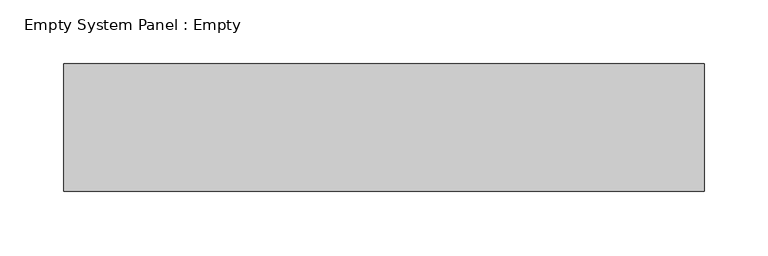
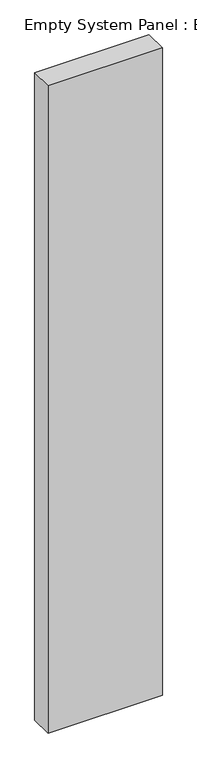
"""IFC4 building model written with IfcOpenShell, lengths in millimetres: plate geometry, Empty System Panel : Empty."""

from ifc_helpers import new_model, si_unit, origin, origin_with_axes, place, context, project, spatial, polyline, outline, extrude, source, transform, mapped, element, save


def empty_system_panel_empty_ae084ab8(model_context):
    return source(origin(), model_context, "Body", "SweptSolid", [
        extrude(outline(polyline([(250.881205, -50.0), (-250.881205, -50.0), (-250.881205, 50.0), (250.881205, 50.0), (250.881205, -50.0)])), origin_with_axes(), (0.0, 0.0, 1.0), 3000.0),
    ])


if __name__ == "__main__":
    model = new_model("IFC4")
    model_context = context("Model", 3, world=origin())
    ifc_project = project(units=[si_unit("LENGTHUNIT", "METRE", prefix="MILLI")], contexts=[model_context])
    site = spatial("IfcSite", under=ifc_project)
    building = spatial("IfcBuilding", under=site)
    placement = place(None, origin())
    empty_system_panel_empty_shape = empty_system_panel_empty_ae084ab8(model_context)
    element("IfcPlate", 1, ObjectType="Empty System Panel : Empty", at=placement, inside=building, context=model_context, shape_type="MappedRepresentation", body=[
        mapped(empty_system_panel_empty_shape, transform((0.0, 0.0, 0.0), x_axis=(1.0, 0.0, 0.0), y_axis=(0.0, 1.0, 0.0), z_axis=(0.0, 0.0, 1.0))),
    ])
    save(model, "model.ifc")
